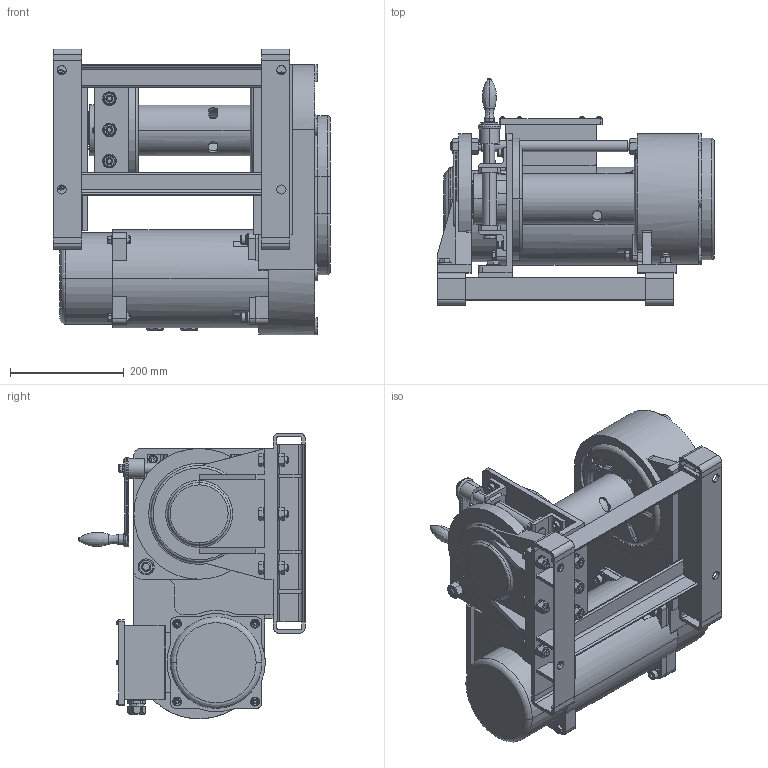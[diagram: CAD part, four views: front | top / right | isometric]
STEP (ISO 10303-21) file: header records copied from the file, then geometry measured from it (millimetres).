
FILE_DESCRIPTION( (''), '2;1');
FILE_NAME ('BMW-503-SC.stp','2023-05-15T16:55:47',(''),(''),'spGate 19.8.2 (****-****-****-****)','','');
FILE_SCHEMA (('AUTOMOTIVE_DESIGN'));
Length unit declared in the file: millimetre
Products named in the file (2): Assembly; BMW-503-SC-prt0
Assembly tree (1 placements, depth 2):
  Assembly
    BMW-503-SC-prt0
Bounding box: 489 x 400.3 x 502.8 mm (x, y, z)
Volume: 26337875.9 mm3; surface area: 1770763.1 mm2
Topology: 1 solids, 1 shells, 2798 faces, 7195 edges, 4493 vertices
Faces by surface type: plane 1545, cylinder 754, bspline 441, sphere 58
Entity records: 149570 total; most frequent: CARTESIAN_POINT 27172, ORIENTED_EDGE 14266, DIRECTION 13217, COLOUR_RGB 9932, PRESENTATION_STYLE_ASSIGNMENT 9932, STYLED_ITEM 9932, EDGE_CURVE 7133, DRAUGHTING_PRE_DEFINED_CURVE_FONT 7133
